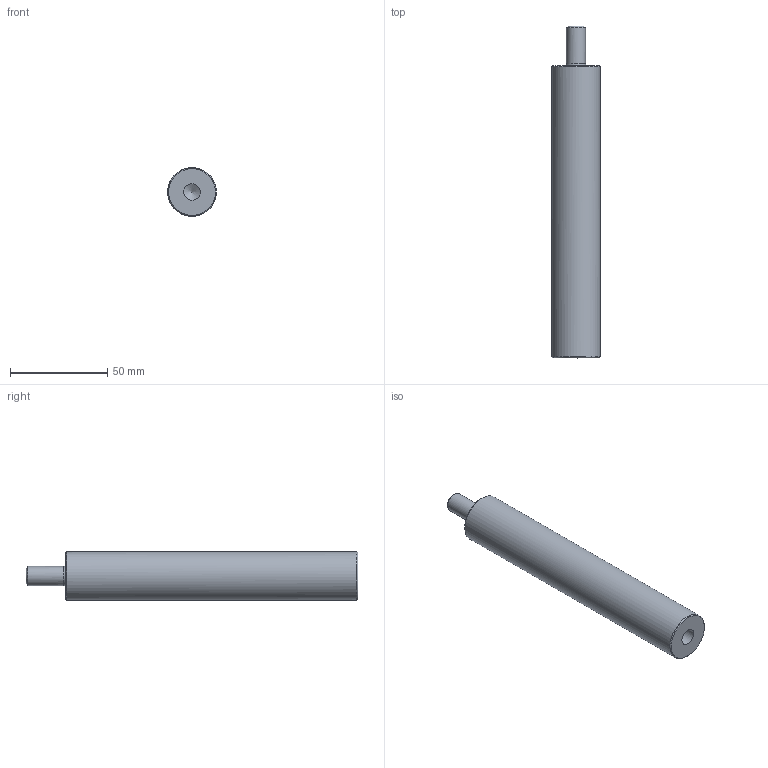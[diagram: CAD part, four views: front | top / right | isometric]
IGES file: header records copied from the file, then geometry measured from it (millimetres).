
Global section: file name: BM12-25D-150L; native system: unknown; preprocessor: unknown; author: unknown; organization: unknown; date: 20231024.140806; units: millimetre
Bounding box: 24.99 x 170.5 x 25 mm (x, y, z)
Volume: 74371.7 mm3; surface area: 13750.3 mm2
Topology: 1 solids, 1 shells, 11 faces, 23 edges, 15 vertices
Faces by surface type: bspline 11
